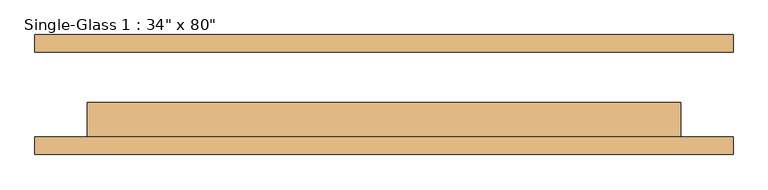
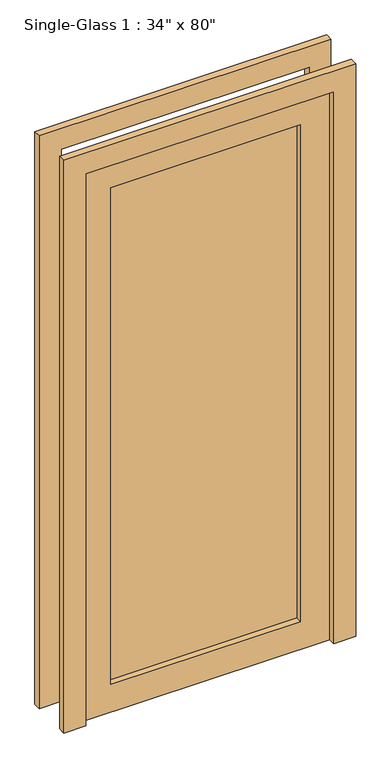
"""IFC4 building model written with IfcOpenShell, lengths in millimetres: door geometry."""

from ifc_helpers import new_model, si_unit, frame, origin, place, context, project, spatial, polyline, outline, extrude, source, transform, mapped, element, save


def door_2dc82d73(model_context):
    return source(origin(), model_context, "Body", "SweptSolid", [
        extrude(outline(polyline([(2032.0, 431.8), (0.0, 431.8), (0.0, 508.0), (2108.2, 508.0), (2108.2, -508.0), (0.0, -508.0), (0.0, -431.8), (2032.0, -431.8), (2032.0, 431.8)])), frame((0.0, 61.9125, 0.0), z_axis=(0.0, 1.0, 0.0), x_axis=(0.0, 0.0, 1.0)), (0.0, 0.0, 1.0), 25.4),
        extrude(outline(polyline([(2032.0, 431.8), (0.0, 431.8), (0.0, 508.0), (2108.2, 508.0), (2108.2, -508.0), (0.0, -508.0), (0.0, -431.8), (2032.0, -431.8), (2032.0, 431.8)])), frame((0.0, -87.3125, 0.0), z_axis=(0.0, 1.0, 0.0), x_axis=(0.0, 0.0, 1.0)), (0.0, 0.0, 1.0), 25.4),
        extrude(outline(polyline([(330.2, -33.3375), (330.2, -39.6875), (-330.2, -39.6875), (-330.2, -33.3375), (330.2, -33.3375)])), frame((0.0, 0.0, 101.6), z_axis=(0.0, 0.0, 1.0), x_axis=(1.0, 0.0, 0.0)), (0.0, 0.0, 1.0), 1828.8),
        extrude(outline(polyline([(2032.0, 431.8), (2032.0, -431.8), (0.0, -431.8), (0.0, 431.8), (2032.0, 431.8)]), holes=[polyline([(1930.4, -330.2), (1930.4, 330.2), (101.6, 330.2), (101.6, -330.2), (1930.4, -330.2)])]), frame((0.0, -61.9125, 0.0), z_axis=(0.0, 1.0, 0.0), x_axis=(0.0, 0.0, 1.0)), (0.0, 0.0, 1.0), 50.8),
    ])


if __name__ == "__main__":
    model = new_model("IFC4")
    model_context = context("Model", 3, world=origin())
    ifc_project = project(units=[si_unit("LENGTHUNIT", "METRE", prefix="MILLI")], contexts=[model_context])
    site = spatial("IfcSite", under=ifc_project)
    building = spatial("IfcBuilding", under=site)
    placement = place(None, origin())
    door_shape = door_2dc82d73(model_context)
    element("IfcDoor", 1, ObjectType="Single-Glass 1 : 34\" x 80\"", at=placement, inside=building, context=model_context, shape_type="MappedRepresentation", body=[
        mapped(door_shape, transform((0.0, 0.0, 0.0), x_axis=(1.0, 0.0, 0.0), y_axis=(0.0, 1.0, 0.0), z_axis=(0.0, 0.0, 1.0))),
    ])
    save(model, "model.ifc")
